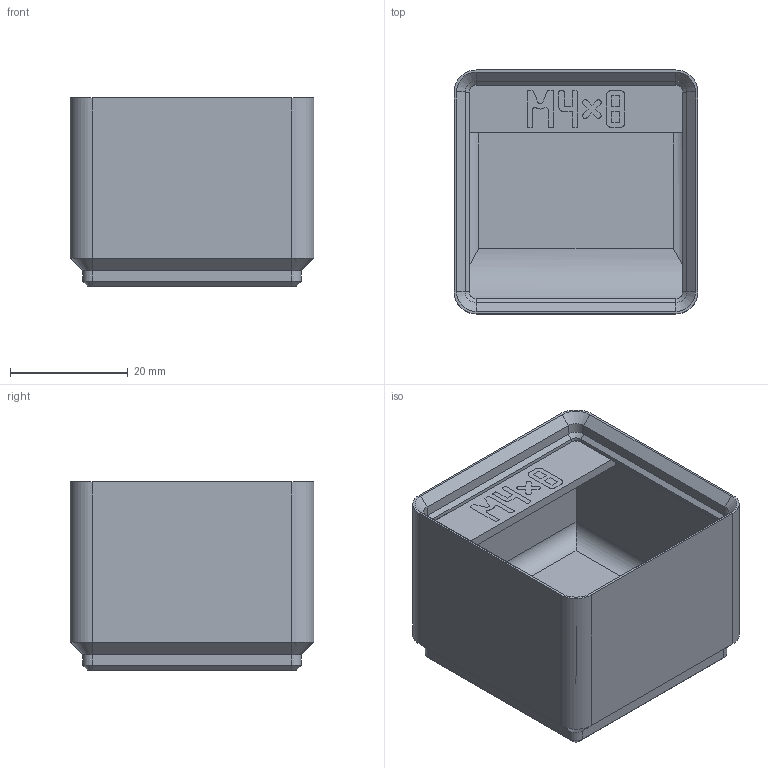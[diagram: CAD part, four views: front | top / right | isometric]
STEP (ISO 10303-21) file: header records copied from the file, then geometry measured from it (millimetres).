
FILE_DESCRIPTION(('Open CASCADE Model'),'2;1');
FILE_NAME('bin_M4_8','2026-11-03T10:52:23',('Author'),('Open CASCADE'), 'Open CASCADE STEP processor 8.0','build123d','Unknown');
FILE_SCHEMA(('AUTOMOTIVE_DESIGN { 1 0 10303 214 1 1 1 1 }'));
Length unit declared in the file: millimetre
Products named in the file (3): bin_M4_8; M4_8_body; M4_8_label
Assembly tree (2 placements, depth 2):
  bin_M4_8
    M4_8_body
    M4_8_label
Bounding box: 41.5 x 41.5 x 32 mm (x, y, z)
Volume: 16774.6 mm3; surface area: 12666.9 mm2
Topology: 5 solids, 5 shells, 821 faces, 2350 edges, 1546 vertices
Faces by surface type: plane 781, cylinder 20, cone 20
Entity records: 56871 total; most frequent: CARTESIAN_POINT 9982, DIRECTION 8507, LINE 6750, VECTOR 6750, ORIENTED_EDGE 4700, PCURVE 4700, DEFINITIONAL_REPRESENTATION 4700, EDGE_CURVE 2350
